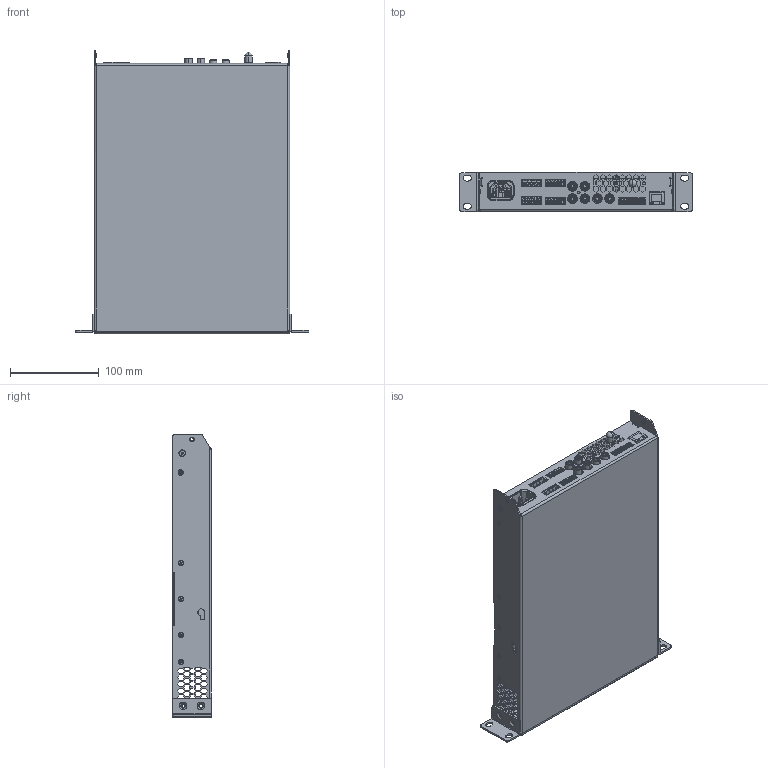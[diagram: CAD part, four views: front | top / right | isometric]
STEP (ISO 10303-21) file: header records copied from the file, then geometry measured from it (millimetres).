
FILE_DESCRIPTION (( 'STEP AP214' ), '1' );
FILE_NAME ('Sonance PowerZone Connect PRO 300.2.STEP', '2026-06-01T16:50:37', ( '' ), ( '' ), 'SwSTEP 2.0', 'SolidWorks 2025', '' );
FILE_SCHEMA (( 'AUTOMOTIVE_DESIGN' ));
Length unit declared in the file: millimetre
Products named in the file (1): Sonance PowerZone Connect PRO 300.2
Bounding box: 263.3 x 43.9 x 320 mm (x, y, z)
Volume: 318398.3 mm3; surface area: 433216.5 mm2
Topology: 117 solids, 117 shells, 6221 faces, 15546 edges, 9795 vertices
Faces by surface type: plane 3814, cylinder 1394, cone 586, torus 300, bspline 83, sphere 44
Entity records: 188915 total; most frequent: CARTESIAN_POINT 37669, DIRECTION 31064, ORIENTED_EDGE 30960, EDGE_CURVE 15480, LINE 10570, VECTOR 10570, AXIS2_PLACEMENT_3D 10247, VERTEX_POINT 9791
